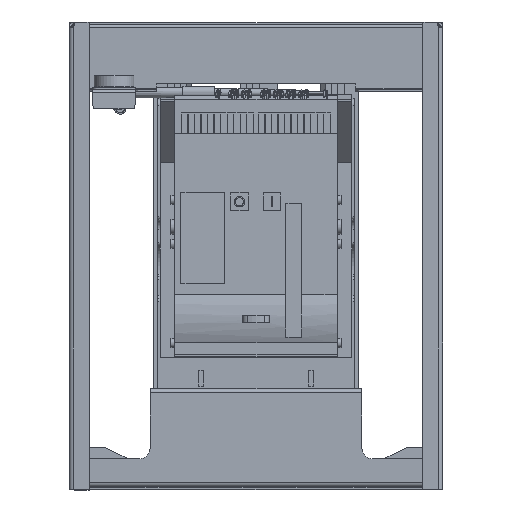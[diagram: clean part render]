
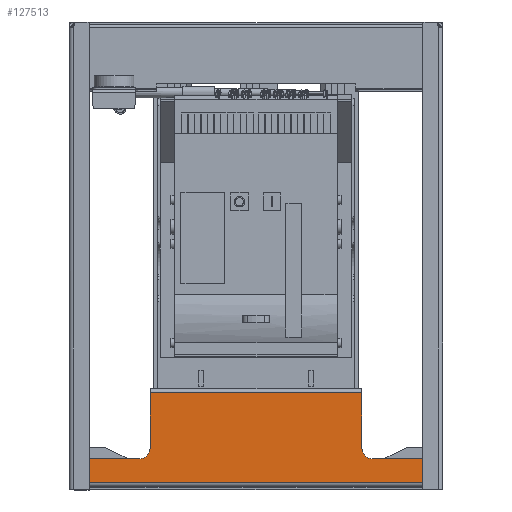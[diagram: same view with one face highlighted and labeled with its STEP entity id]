
A CAD part, top view. The second image highlights one B-rep face of the part: STEP entity #127513.
In plain terms, the highlighted planar face has unit normal (0, 0, 1).
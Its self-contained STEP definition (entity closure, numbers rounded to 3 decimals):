
#223 = CARTESIAN_POINT ( 'NONE',  ( 187., 49., 746. ) ) ;
#764 = CARTESIAN_POINT ( 'NONE',  ( -187., 66., 746. ) ) ;
#1557 = CIRCLE ( 'NONE', #146947, 17. ) ;
#4014 = CARTESIAN_POINT ( 'NONE',  ( -170., 154.5, 746. ) ) ;
#7599 = DIRECTION ( 'NONE',  ( 0., 1., 0. ) ) ;
#9424 = CARTESIAN_POINT ( 'NONE',  ( -170., 161.5, 746. ) ) ;
#10028 = LINE ( 'NONE', #26448, #132103 ) ;
#13606 = CARTESIAN_POINT ( 'NONE',  ( 0., 49., 746. ) ) ;
#16032 = LINE ( 'NONE', #9424, #82964 ) ;
#17208 = CIRCLE ( 'NONE', #78252, 17. ) ;
#20310 = ORIENTED_EDGE ( 'NONE', *, *, #23195, .T. ) ;
#22091 = ORIENTED_EDGE ( 'NONE', *, *, #114743, .T. ) ;
#22414 = ORIENTED_EDGE ( 'NONE', *, *, #109066, .T. ) ;
#23195 = EDGE_CURVE ( 'NONE', #139723, #54693, #10028, .T. ) ;
#24612 = VECTOR ( 'NONE', #132438, 1000. ) ;
#25534 = CARTESIAN_POINT ( 'NONE',  ( 170., 154.5, 746. ) ) ;
#26448 = CARTESIAN_POINT ( 'NONE',  ( -291., 11., 746. ) ) ;
#29953 = DIRECTION ( 'NONE',  ( 0., 1., 0. ) ) ;
#33717 = EDGE_CURVE ( 'NONE', #150771, #161392, #17208, .T. ) ;
#37335 = CARTESIAN_POINT ( 'NONE',  ( 268., 49., 746. ) ) ;
#42284 = LINE ( 'NONE', #152898, #97308 ) ;
#45560 = DIRECTION ( 'NONE',  ( 0., 0., -1. ) ) ;
#46113 = PLANE ( 'NONE',  #56089 ) ;
#47983 = EDGE_CURVE ( 'NONE', #139723, #88161, #112232, .T. ) ;
#54693 = VERTEX_POINT ( 'NONE', #111732 ) ;
#56089 = AXIS2_PLACEMENT_3D ( 'NONE', #122060, #45560, #71986 ) ;
#58095 = VECTOR ( 'NONE', #72881, 1000. ) ;
#58954 = CARTESIAN_POINT ( 'NONE',  ( -268., 11., 746. ) ) ;
#61166 = VERTEX_POINT ( 'NONE', #25534 ) ;
#62313 = DIRECTION ( 'NONE',  ( 1., 0., 0. ) ) ;
#62960 = DIRECTION ( 'NONE',  ( 0., 0., -1. ) ) ;
#65436 = CARTESIAN_POINT ( 'NONE',  ( -170., 66., 746. ) ) ;
#66279 = CARTESIAN_POINT ( 'NONE',  ( 268., 743., 746. ) ) ;
#71986 = DIRECTION ( 'NONE',  ( 0., 1., 0. ) ) ;
#72881 = DIRECTION ( 'NONE',  ( -1., 0., 0. ) ) ;
#78252 = AXIS2_PLACEMENT_3D ( 'NONE', #95981, #94912, #132938 ) ;
#79578 = ORIENTED_EDGE ( 'NONE', *, *, #144505, .T. ) ;
#79654 = EDGE_CURVE ( 'NONE', #54693, #129636, #113675, .T. ) ;
#81119 = VECTOR ( 'NONE', #87928, 1000. ) ;
#81895 = CARTESIAN_POINT ( 'NONE',  ( 170., 66., 746. ) ) ;
#82964 = VECTOR ( 'NONE', #96844, 1000. ) ;
#86152 = VERTEX_POINT ( 'NONE', #4014 ) ;
#87928 = DIRECTION ( 'NONE',  ( -1., 0., 0. ) ) ;
#88161 = VERTEX_POINT ( 'NONE', #136142 ) ;
#92897 = DIRECTION ( 'NONE',  ( 0., 1., 0. ) ) ;
#93961 = VECTOR ( 'NONE', #29953, 1000. ) ;
#94912 = DIRECTION ( 'NONE',  ( 0., 0., -1. ) ) ;
#95418 = LINE ( 'NONE', #110281, #58095 ) ;
#95473 = LINE ( 'NONE', #120877, #24612 ) ;
#95981 = CARTESIAN_POINT ( 'NONE',  ( 187., 66., 746. ) ) ;
#96844 = DIRECTION ( 'NONE',  ( 0., -1., 0. ) ) ;
#97308 = VECTOR ( 'NONE', #92897, 1000. ) ;
#97564 = ORIENTED_EDGE ( 'NONE', *, *, #79654, .T. ) ;
#102623 = LINE ( 'NONE', #13606, #81119 ) ;
#103134 = ORIENTED_EDGE ( 'NONE', *, *, #33717, .T. ) ;
#109066 = EDGE_CURVE ( 'NONE', #86152, #140109, #16032, .T. ) ;
#110281 = CARTESIAN_POINT ( 'NONE',  ( 0., 49., 746. ) ) ;
#111579 = ORIENTED_EDGE ( 'NONE', *, *, #127344, .T. ) ;
#111732 = CARTESIAN_POINT ( 'NONE',  ( 268., 11., 746. ) ) ;
#112232 = LINE ( 'NONE', #158842, #125994 ) ;
#112669 = ORIENTED_EDGE ( 'NONE', *, *, #117382, .F. ) ;
#113675 = LINE ( 'NONE', #66279, #93961 ) ;
#114533 = EDGE_CURVE ( 'NONE', #129636, #150771, #95418, .T. ) ;
#114743 = EDGE_CURVE ( 'NONE', #140109, #118479, #1557, .T. ) ;
#115010 = FACE_OUTER_BOUND ( 'NONE', #145999, .T. ) ;
#117382 = EDGE_CURVE ( 'NONE', #86152, #61166, #95473, .T. ) ;
#118479 = VERTEX_POINT ( 'NONE', #121687 ) ;
#120877 = CARTESIAN_POINT ( 'NONE',  ( 160., 154.5, 746. ) ) ;
#121687 = CARTESIAN_POINT ( 'NONE',  ( -187., 49., 746. ) ) ;
#122060 = CARTESIAN_POINT ( 'NONE',  ( 0., 161.5, 746. ) ) ;
#125994 = VECTOR ( 'NONE', #7599, 1000. ) ;
#126735 = DIRECTION ( 'NONE',  ( 0., 1., 0. ) ) ;
#127344 = EDGE_CURVE ( 'NONE', #161392, #61166, #42284, .T. ) ;
#127513 = ADVANCED_FACE ( 'NONE', ( #115010 ), #46113, .F. ) ;
#129636 = VERTEX_POINT ( 'NONE', #37335 ) ;
#132103 = VECTOR ( 'NONE', #62313, 1000. ) ;
#132438 = DIRECTION ( 'NONE',  ( 1., 0., 0. ) ) ;
#132938 = DIRECTION ( 'NONE',  ( 0., 1., 0. ) ) ;
#136142 = CARTESIAN_POINT ( 'NONE',  ( -268., 49., 746. ) ) ;
#139723 = VERTEX_POINT ( 'NONE', #58954 ) ;
#140109 = VERTEX_POINT ( 'NONE', #65436 ) ;
#141772 = ORIENTED_EDGE ( 'NONE', *, *, #47983, .F. ) ;
#144505 = EDGE_CURVE ( 'NONE', #118479, #88161, #102623, .T. ) ;
#145999 = EDGE_LOOP ( 'NONE', ( #141772, #20310, #97564, #155772, #103134, #111579, #112669, #22414, #22091, #79578 ) ) ;
#146947 = AXIS2_PLACEMENT_3D ( 'NONE', #764, #62960, #126735 ) ;
#150771 = VERTEX_POINT ( 'NONE', #223 ) ;
#152898 = CARTESIAN_POINT ( 'NONE',  ( 170., 161.5, 746. ) ) ;
#155772 = ORIENTED_EDGE ( 'NONE', *, *, #114533, .T. ) ;
#158842 = CARTESIAN_POINT ( 'NONE',  ( -268., 743., 746. ) ) ;
#161392 = VERTEX_POINT ( 'NONE', #81895 ) ;
